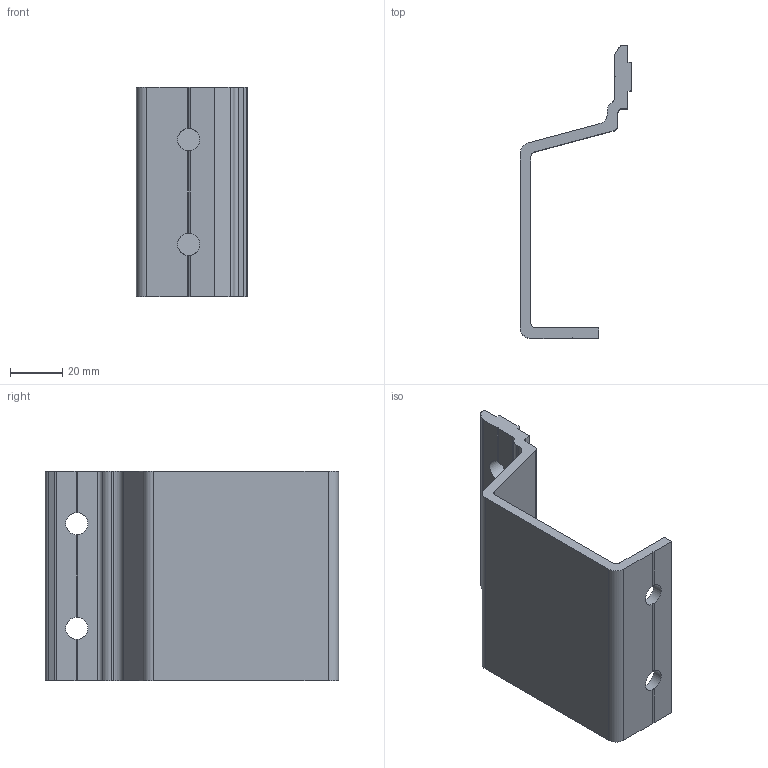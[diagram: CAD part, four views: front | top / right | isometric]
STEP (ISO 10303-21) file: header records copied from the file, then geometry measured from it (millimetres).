
FILE_DESCRIPTION(/* description */ ('BEAM SUPPORT BRACKET FOR PROFILE 80x80 FOR ALL CONVEYORPROFILES'),/* implementation_level */ '2;1');
FILE_NAME(/* name */ '\\carryline.intra\privat\users\mathias\Desktop\Tillfälliga filer\100-1240.stp',/* time_stamp */ '2018-11-20T07:10:23+01:00',/* author */ ('PL'),/* organization */ ('CARRYLINE'),/* preprocessor_version */ 'ST-DEVELOPER v17',/* originating_system */ 'Autodesk Inventor 2018',/* authorisation */ '');
FILE_SCHEMA (('AUTOMOTIVE_DESIGN { 1 0 10303 214 3 1 1 }'));
Length unit declared in the file: millimetre
Products named in the file (1): 100-1240
Bounding box: 42.5 x 112 x 80 mm (x, y, z)
Volume: 54299.3 mm3; surface area: 28351.6 mm2
Topology: 1 solids, 1 shells, 51 faces, 163 edges, 110 vertices
Faces by surface type: plane 34, cylinder 17
Full cylindrical faces by diameter (mm): 8.5 x4
Entity records: 1886 total; most frequent: DIRECTION 329, ORIENTED_EDGE 326, CARTESIAN_POINT 325, EDGE_CURVE 163, AXIS2_PLACEMENT_3D 114, VERTEX_POINT 110, LINE 101, VECTOR 101
